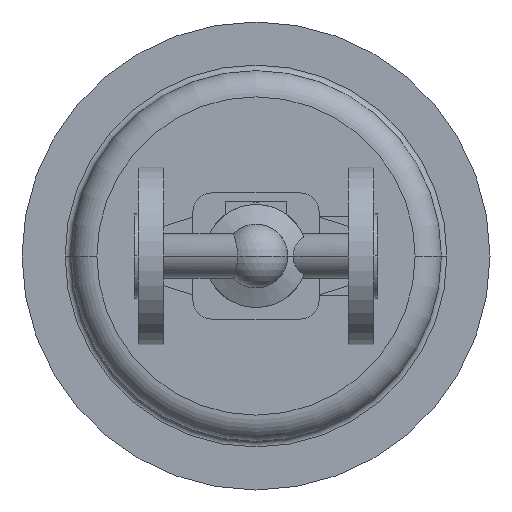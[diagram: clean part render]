
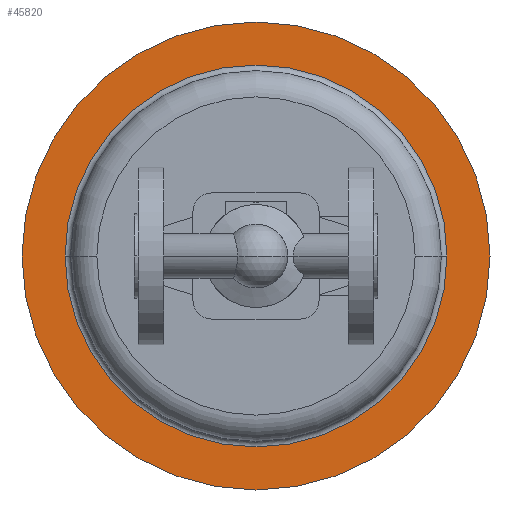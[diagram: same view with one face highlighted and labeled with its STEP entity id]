
A CAD part, front view. The second image highlights one B-rep face of the part: STEP entity #45820.
In plain terms, the highlighted planar face has unit normal (0, -1, 0).
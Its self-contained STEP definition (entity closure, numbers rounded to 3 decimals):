
#31930=CARTESIAN_POINT('',(190.,375.,0.));
#31940=VERTEX_POINT('',#31930);
#31970=CARTESIAN_POINT('',(65.,375.,0.));
#31980=DIRECTION('',(0.,1.,0.));
#31990=DIRECTION('',(1.,0.,0.));
#32000=AXIS2_PLACEMENT_3D('',#31970,#31980,#31990);
#32010=CIRCLE('',#32000,125.);
#32020=CARTESIAN_POINT('',(-60.,375.,0.));
#32030=VERTEX_POINT('',#32020);
#32040=EDGE_CURVE('',#32030,#31940,#32010,.T.);
#32360=CARTESIAN_POINT('',(167.,375.,0.));
#32370=VERTEX_POINT('',#32360);
#32400=CARTESIAN_POINT('',(65.,375.,0.));
#32410=DIRECTION('',(0.,1.,0.));
#32420=DIRECTION('',(1.,0.,0.));
#32430=AXIS2_PLACEMENT_3D('',#32400,#32410,#32420);
#32440=CIRCLE('',#32430,102.);
#32450=CARTESIAN_POINT('',(-37.,375.,0.));
#32460=VERTEX_POINT('',#32450);
#32470=EDGE_CURVE('',#32370,#32460,#32440,.T.);
#45630=CARTESIAN_POINT('',(178.5,375.,0.));
#45640=DIRECTION('',(0.,-1.,0.));
#45650=DIRECTION('',(-1.,0.,0.));
#45660=AXIS2_PLACEMENT_3D('',#45630,#45640,#45650);
#45670=PLANE('',#45660);
#45680=EDGE_CURVE('',#31940,#32030,#32010,.T.);
#45690=ORIENTED_EDGE('',*,*,#45680,.F.);
#45700=ORIENTED_EDGE('',*,*,#32040,.F.);
#45710=EDGE_LOOP('',(#45700,#45690));
#45720=FACE_OUTER_BOUND('',#45710,.T.);
#45730=ORIENTED_EDGE('',*,*,#32470,.T.);
#45740=CARTESIAN_POINT('',(65.,375.,102.));
#45750=VERTEX_POINT('',#45740);
#45760=EDGE_CURVE('',#45750,#32370,#32440,.T.);
#45770=ORIENTED_EDGE('',*,*,#45760,.T.);
#45780=EDGE_CURVE('',#32460,#45750,#32440,.T.);
#45790=ORIENTED_EDGE('',*,*,#45780,.T.);
#45800=EDGE_LOOP('',(#45790,#45770,#45730));
#45810=FACE_BOUND('',#45800,.T.);
#45820=ADVANCED_FACE('',(#45720,#45810),#45670,.T.);
